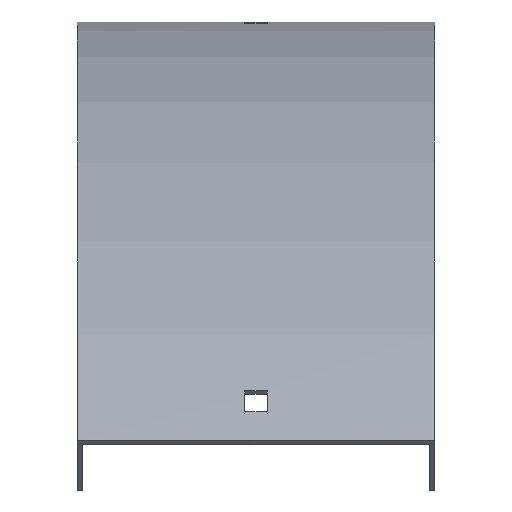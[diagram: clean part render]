
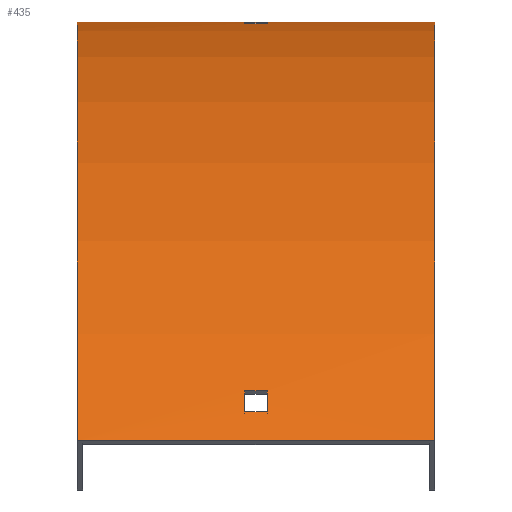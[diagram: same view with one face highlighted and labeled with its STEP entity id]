
A CAD part, top view. The second image highlights one B-rep face of the part: STEP entity #435.
In plain terms, the highlighted cylindrical face has radius 414 mm (diameter 828 mm), a partial arc.
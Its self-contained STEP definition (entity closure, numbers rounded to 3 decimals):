
#4 = AXIS2_PLACEMENT_3D ( 'NONE', #155, #345, #113 ) ;
#5 = CARTESIAN_POINT ( 'NONE',  ( -3.25, -0.533, 21. ) ) ;
#10 = DIRECTION ( 'NONE',  ( 1., 0., 0. ) ) ;
#11 = VERTEX_POINT ( 'NONE', #518 ) ;
#14 = DIRECTION ( 'NONE',  ( 0., 0., 1. ) ) ;
#18 = VECTOR ( 'NONE', #333, 1000. ) ;
#19 = EDGE_CURVE ( 'NONE', #97, #417, #203, .T. ) ;
#20 = ORIENTED_EDGE ( 'NONE', *, *, #35, .T. ) ;
#21 = CYLINDRICAL_SURFACE ( 'NONE', #437, 414. ) ;
#22 = CARTESIAN_POINT ( 'NONE',  ( 51.5, 0., 0. ) ) ;
#32 = EDGE_LOOP ( 'NONE', ( #266, #522, #520, #313 ) ) ;
#35 = EDGE_CURVE ( 'NONE', #260, #11, #516, .T. ) ;
#51 = CARTESIAN_POINT ( 'NONE',  ( 51.5, -414., 0. ) ) ;
#53 = DIRECTION ( 'NONE',  ( 1., 0., 0. ) ) ;
#59 = CARTESIAN_POINT ( 'NONE',  ( 51.5, -414., 0. ) ) ;
#62 = FACE_BOUND ( 'NONE', #132, .T. ) ;
#64 = CARTESIAN_POINT ( 'NONE',  ( 3.25, -0.533, 21. ) ) ;
#82 = VERTEX_POINT ( 'NONE', #494 ) ;
#93 = EDGE_CURVE ( 'NONE', #604, #574, #244, .T. ) ;
#97 = VERTEX_POINT ( 'NONE', #22 ) ;
#100 = EDGE_CURVE ( 'NONE', #417, #11, #394, .T. ) ;
#102 = AXIS2_PLACEMENT_3D ( 'NONE', #227, #53, #235 ) ;
#113 = DIRECTION ( 'NONE',  ( 0., 0., 1. ) ) ;
#115 = CARTESIAN_POINT ( 'NONE',  ( 3.25, -106.785, 277.516 ) ) ;
#116 = CARTESIAN_POINT ( 'NONE',  ( -3.25, -0.174, 12. ) ) ;
#123 = AXIS2_PLACEMENT_3D ( 'NONE', #273, #173, #404 ) ;
#129 = DIRECTION ( 'NONE',  ( 0., 0., -1. ) ) ;
#132 = EDGE_LOOP ( 'NONE', ( #553, #331, #469, #595 ) ) ;
#142 = LINE ( 'NONE', #523, #18 ) ;
#144 = AXIS2_PLACEMENT_3D ( 'NONE', #239, #10, #191 ) ;
#151 = DIRECTION ( 'NONE',  ( -1., 0., 0. ) ) ;
#155 = CARTESIAN_POINT ( 'NONE',  ( -3.25, -414., 0. ) ) ;
#159 = EDGE_CURVE ( 'NONE', #288, #398, #272, .T. ) ;
#162 = VECTOR ( 'NONE', #321, 1000. ) ;
#168 = VECTOR ( 'NONE', #151, 1000. ) ;
#169 = CARTESIAN_POINT ( 'NONE',  ( -3.25, -106.785, 277.516 ) ) ;
#171 = EDGE_LOOP ( 'NONE', ( #20, #379, #269, #465 ) ) ;
#173 = DIRECTION ( 'NONE',  ( -1., 0., 0. ) ) ;
#191 = DIRECTION ( 'NONE',  ( 0., 0., -1. ) ) ;
#198 = CIRCLE ( 'NONE', #588, 414. ) ;
#201 = DIRECTION ( 'NONE',  ( -1., 0., 0. ) ) ;
#203 = CIRCLE ( 'NONE', #559, 414. ) ;
#222 = LINE ( 'NONE', #234, #442 ) ;
#227 = CARTESIAN_POINT ( 'NONE',  ( -51.5, -414., 0. ) ) ;
#234 = CARTESIAN_POINT ( 'NONE',  ( 51.5, -112.896, 284.134 ) ) ;
#235 = DIRECTION ( 'NONE',  ( 0., 0., -1. ) ) ;
#239 = CARTESIAN_POINT ( 'NONE',  ( 3.25, -414., 0. ) ) ;
#242 = EDGE_CURVE ( 'NONE', #566, #604, #567, .T. ) ;
#244 = LINE ( 'NONE', #543, #168 ) ;
#253 = CARTESIAN_POINT ( 'NONE',  ( 51.5, -121.258, 292.742 ) ) ;
#256 = CARTESIAN_POINT ( 'NONE',  ( -3.25, -112.896, 284.134 ) ) ;
#260 = VERTEX_POINT ( 'NONE', #371 ) ;
#266 = ORIENTED_EDGE ( 'NONE', *, *, #360, .F. ) ;
#269 = ORIENTED_EDGE ( 'NONE', *, *, #19, .F. ) ;
#272 = CIRCLE ( 'NONE', #4, 414. ) ;
#273 = CARTESIAN_POINT ( 'NONE',  ( 3.25, -414., 0. ) ) ;
#288 = VERTEX_POINT ( 'NONE', #5 ) ;
#299 = EDGE_CURVE ( 'NONE', #401, #566, #222, .T. ) ;
#313 = ORIENTED_EDGE ( 'NONE', *, *, #299, .F. ) ;
#318 = DIRECTION ( 'NONE',  ( -1., 0., 0. ) ) ;
#321 = DIRECTION ( 'NONE',  ( -1., 0., 0. ) ) ;
#331 = ORIENTED_EDGE ( 'NONE', *, *, #159, .T. ) ;
#333 = DIRECTION ( 'NONE',  ( 1., 0., 0. ) ) ;
#338 = CARTESIAN_POINT ( 'NONE',  ( -3.25, -414., 0. ) ) ;
#342 = DIRECTION ( 'NONE',  ( -1., 0., 0. ) ) ;
#345 = DIRECTION ( 'NONE',  ( -1., 0., 0. ) ) ;
#349 = EDGE_CURVE ( 'NONE', #82, #489, #599, .T. ) ;
#360 = EDGE_CURVE ( 'NONE', #574, #401, #198, .T. ) ;
#363 = VECTOR ( 'NONE', #318, 1000. ) ;
#371 = CARTESIAN_POINT ( 'NONE',  ( -51.5, 0., 0. ) ) ;
#379 = ORIENTED_EDGE ( 'NONE', *, *, #100, .F. ) ;
#385 = EDGE_CURVE ( 'NONE', #398, #82, #142, .T. ) ;
#394 = LINE ( 'NONE', #253, #436 ) ;
#398 = VERTEX_POINT ( 'NONE', #116 ) ;
#401 = VERTEX_POINT ( 'NONE', #256 ) ;
#402 = FACE_OUTER_BOUND ( 'NONE', #171, .T. ) ;
#404 = DIRECTION ( 'NONE',  ( 0., 0., 1. ) ) ;
#407 = CARTESIAN_POINT ( 'NONE',  ( 3.25, -112.896, 284.134 ) ) ;
#417 = VERTEX_POINT ( 'NONE', #485 ) ;
#432 = DIRECTION ( 'NONE',  ( 0., 0., -1. ) ) ;
#435 = ADVANCED_FACE ( 'NONE', ( #402, #62, #586 ), #21, .T. ) ;
#436 = VECTOR ( 'NONE', #342, 1000. ) ;
#437 = AXIS2_PLACEMENT_3D ( 'NONE', #59, #201, #14 ) ;
#442 = VECTOR ( 'NONE', #575, 1000. ) ;
#452 = LINE ( 'NONE', #456, #162 ) ;
#456 = CARTESIAN_POINT ( 'NONE',  ( 51.5, -0.533, 21. ) ) ;
#465 = ORIENTED_EDGE ( 'NONE', *, *, #541, .T. ) ;
#469 = ORIENTED_EDGE ( 'NONE', *, *, #385, .T. ) ;
#481 = DIRECTION ( 'NONE',  ( 1., 0., 0. ) ) ;
#485 = CARTESIAN_POINT ( 'NONE',  ( 51.5, -121.258, 292.742 ) ) ;
#489 = VERTEX_POINT ( 'NONE', #64 ) ;
#494 = CARTESIAN_POINT ( 'NONE',  ( 3.25, -0.174, 12. ) ) ;
#499 = CARTESIAN_POINT ( 'NONE',  ( 51.5, 0., 0. ) ) ;
#504 = LINE ( 'NONE', #499, #363 ) ;
#511 = DIRECTION ( 'NONE',  ( 1., 0., 0. ) ) ;
#516 = CIRCLE ( 'NONE', #102, 414. ) ;
#518 = CARTESIAN_POINT ( 'NONE',  ( -51.5, -121.258, 292.742 ) ) ;
#520 = ORIENTED_EDGE ( 'NONE', *, *, #242, .F. ) ;
#522 = ORIENTED_EDGE ( 'NONE', *, *, #93, .F. ) ;
#523 = CARTESIAN_POINT ( 'NONE',  ( 51.5, -0.174, 12. ) ) ;
#541 = EDGE_CURVE ( 'NONE', #97, #260, #504, .T. ) ;
#543 = CARTESIAN_POINT ( 'NONE',  ( 51.5, -106.785, 277.516 ) ) ;
#553 = ORIENTED_EDGE ( 'NONE', *, *, #554, .T. ) ;
#554 = EDGE_CURVE ( 'NONE', #489, #288, #452, .T. ) ;
#559 = AXIS2_PLACEMENT_3D ( 'NONE', #51, #481, #432 ) ;
#566 = VERTEX_POINT ( 'NONE', #407 ) ;
#567 = CIRCLE ( 'NONE', #123, 414. ) ;
#574 = VERTEX_POINT ( 'NONE', #169 ) ;
#575 = DIRECTION ( 'NONE',  ( 1., 0., 0. ) ) ;
#586 = FACE_BOUND ( 'NONE', #32, .T. ) ;
#588 = AXIS2_PLACEMENT_3D ( 'NONE', #338, #511, #129 ) ;
#595 = ORIENTED_EDGE ( 'NONE', *, *, #349, .T. ) ;
#599 = CIRCLE ( 'NONE', #144, 414. ) ;
#604 = VERTEX_POINT ( 'NONE', #115 ) ;
